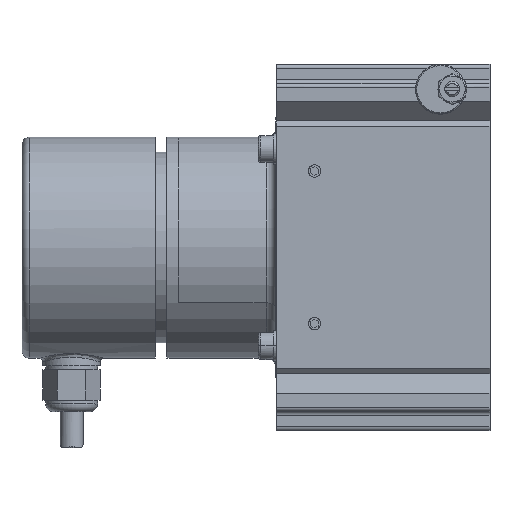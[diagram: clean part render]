
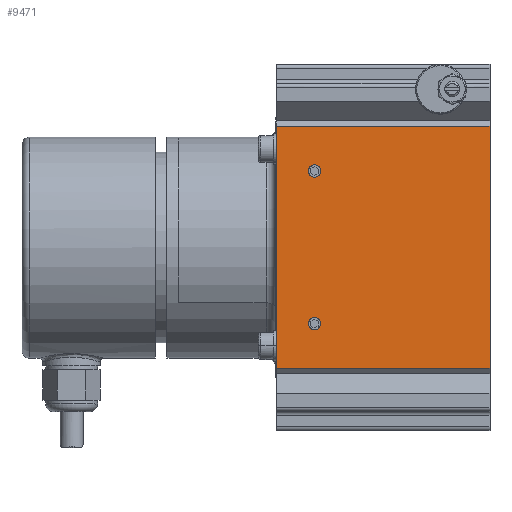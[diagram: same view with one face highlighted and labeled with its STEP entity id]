
A CAD part, top view. The second image highlights one B-rep face of the part: STEP entity #9471.
In plain terms, the highlighted planar face has unit normal (0, 0, 1).
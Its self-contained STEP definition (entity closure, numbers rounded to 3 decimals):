
#1026=DIRECTION('',(0.,-1.,0.));
#1027=VECTOR('',#1026,63.5);
#1028=CARTESIAN_POINT('',(0.,31.75,48.));
#1029=LINE('',#1028,#1027);
#1664=DIRECTION('',(1.,0.,0.));
#1665=VECTOR('',#1664,56.);
#1666=CARTESIAN_POINT('',(0.,-31.75,48.));
#1667=LINE('',#1666,#1665);
#1672=DIRECTION('',(1.,0.,0.));
#1673=VECTOR('',#1672,56.);
#1674=CARTESIAN_POINT('',(0.,31.75,48.));
#1675=LINE('',#1674,#1673);
#1676=DIRECTION('',(0.,-1.,0.));
#1677=VECTOR('',#1676,63.5);
#1678=CARTESIAN_POINT('',(56.,31.75,48.));
#1679=LINE('',#1678,#1677);
#1680=CARTESIAN_POINT('',(10.,20.,48.));
#1681=DIRECTION('',(0.,0.,1.));
#1682=DIRECTION('',(0.,1.,0.));
#1683=AXIS2_PLACEMENT_3D('',#1680,#1681,#1682);
#1685=CARTESIAN_POINT('',(10.,20.,48.));
#1686=DIRECTION('',(0.,0.,1.));
#1687=DIRECTION('',(0.,-1.,0.));
#1688=AXIS2_PLACEMENT_3D('',#1685,#1686,#1687);
#1690=CARTESIAN_POINT('',(10.,-20.,48.));
#1691=DIRECTION('',(0.,0.,1.));
#1692=DIRECTION('',(0.,1.,0.));
#1693=AXIS2_PLACEMENT_3D('',#1690,#1691,#1692);
#1695=CARTESIAN_POINT('',(10.,-20.,48.));
#1696=DIRECTION('',(0.,0.,1.));
#1697=DIRECTION('',(0.,-1.,0.));
#1698=AXIS2_PLACEMENT_3D('',#1695,#1696,#1697);
#6556=CARTESIAN_POINT('',(10.,18.35,48.));
#6557=VERTEX_POINT('',#6556);
#6558=CARTESIAN_POINT('',(10.,21.65,48.));
#6559=VERTEX_POINT('',#6558);
#6560=CARTESIAN_POINT('',(10.,-21.65,48.));
#6561=VERTEX_POINT('',#6560);
#6562=CARTESIAN_POINT('',(10.,-18.35,48.));
#6563=VERTEX_POINT('',#6562);
#6694=CARTESIAN_POINT('',(0.,31.75,48.));
#6695=VERTEX_POINT('',#6694);
#6696=CARTESIAN_POINT('',(0.,-31.75,48.));
#6697=VERTEX_POINT('',#6696);
#6834=CARTESIAN_POINT('',(56.,-31.75,48.));
#6835=VERTEX_POINT('',#6834);
#6836=CARTESIAN_POINT('',(56.,31.75,48.));
#6837=VERTEX_POINT('',#6836);
#9447=CARTESIAN_POINT('',(0.,-43.,48.));
#9448=DIRECTION('',(0.,0.,1.));
#9449=DIRECTION('',(0.,1.,0.));
#9450=AXIS2_PLACEMENT_3D('',#9447,#9448,#9449);
#9451=PLANE('',#9450);
#9452=ORIENTED_EDGE('',*,*,#9440,.F.);
#9453=ORIENTED_EDGE('',*,*,#8722,.F.);
#9455=ORIENTED_EDGE('',*,*,#9454,.T.);
#9456=ORIENTED_EDGE('',*,*,#8885,.T.);
#9457=EDGE_LOOP('',(#9452,#9453,#9455,#9456));
#9458=FACE_OUTER_BOUND('',#9457,.F.);
#9460=ORIENTED_EDGE('',*,*,#9459,.T.);
#9462=ORIENTED_EDGE('',*,*,#9461,.T.);
#9463=EDGE_LOOP('',(#9460,#9462));
#9464=FACE_BOUND('',#9463,.F.);
#9466=ORIENTED_EDGE('',*,*,#9465,.T.);
#9468=ORIENTED_EDGE('',*,*,#9467,.T.);
#9469=EDGE_LOOP('',(#9466,#9468));
#9470=FACE_BOUND('',#9469,.F.);
#9471=ADVANCED_FACE('',(#9458,#9464,#9470),#9451,.T.);
#1684=CIRCLE('',#1683,1.65);
#1689=CIRCLE('',#1688,1.65);
#1694=CIRCLE('',#1693,1.65);
#1699=CIRCLE('',#1698,1.65);
#8722=EDGE_CURVE('',#6695,#6697,#1029,.T.);
#8885=EDGE_CURVE('',#6837,#6835,#1679,.T.);
#9440=EDGE_CURVE('',#6697,#6835,#1667,.T.);
#9454=EDGE_CURVE('',#6695,#6837,#1675,.T.);
#9459=EDGE_CURVE('',#6559,#6557,#1684,.T.);
#9461=EDGE_CURVE('',#6557,#6559,#1689,.T.);
#9465=EDGE_CURVE('',#6563,#6561,#1694,.T.);
#9467=EDGE_CURVE('',#6561,#6563,#1699,.T.);
